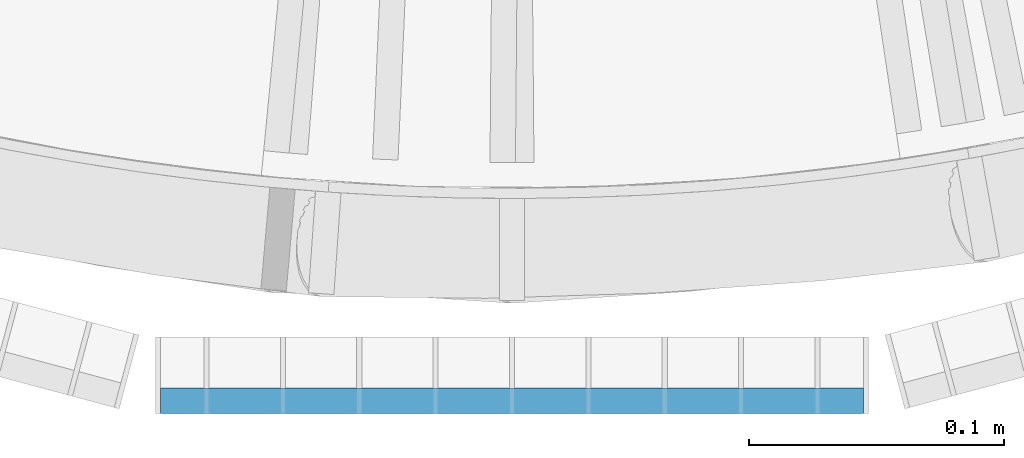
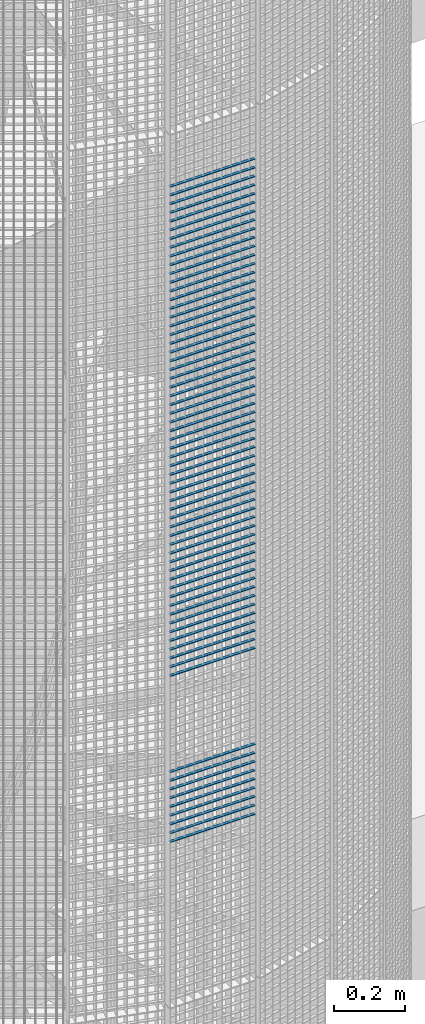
# One storey, part 150 of 1183: 66 beams, 1 element without a shape of its own.
"""IFC2X3 building model written with IfcOpenShell, lengths in millimetres."""

from ifc_helpers import new_model, si_unit, frame, origin_with_axes, origin_2d_with_axis, place, context, subcontext, project, spatial, rectangle, extrude, material, type_object, element, aggregate, save


model = new_model("IFC2X3")

# Units and contexts
model_context = context("Model", 3, precision=1e-05, world=origin_with_axes())
body_context = subcontext(model_context, "Body", "Model", "MODEL_VIEW")
ifc_project = project(units=[si_unit("LENGTHUNIT", "METRE", prefix="MILLI"), si_unit("AREAUNIT", "SQUARE_METRE"), si_unit("VOLUMEUNIT", "CUBIC_METRE"), si_unit("MASSUNIT", "GRAM", prefix="KILO"), si_unit("TIMEUNIT", "SECOND"), si_unit("PLANEANGLEUNIT", "RADIAN"), si_unit("SOLIDANGLEUNIT", "STERADIAN"), si_unit("THERMODYNAMICTEMPERATUREUNIT", "DEGREE_CELSIUS"), si_unit("LUMINOUSINTENSITYUNIT", "LUMEN")], contexts=[model_context])

# Site, building, storey
site_placement = place(None, origin_with_axes())
site = spatial("IfcSite", under=ifc_project, at=site_placement, Name="Undefined", CompositionType="ELEMENT")
building_placement = place(site_placement, origin_with_axes())
building = spatial("IfcBuilding", under=site, at=building_placement, Name="Undefined", CompositionType="ELEMENT")
storey_placement = place(building_placement, origin_with_axes())
storey = spatial("IfcBuildingStorey", under=building, at=storey_placement, Name="Undefined", CompositionType="ELEMENT", Elevation=0.0)

# Assembly, beams
assembly_placement = place(storey_placement, origin_with_axes())
assembly = element("IfcElementAssembly", 1, at=assembly_placement, inside=storey, Name="BORDURE", AssemblyPlace="NOTDEFINED", PredefinedType="NOTDEFINED")
ifc_material = material(Name="STEEL/S235JR")
beam_type = type_object("IfcBeamType", Name="PL2*10", PredefinedType="NOTDEFINED")
beam_1_placement = place(assembly_placement, frame((-137.996003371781, -1113.47999999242, 11820.0), z_axis=(0.0, -1.0, 0.0), x_axis=(1.0, 0.0, 0.0)))
beam_1 = element("IfcBeam", 2, at=beam_1_placement, type_object=beam_type, material=ifc_material, Name="ENTRETOISE", context=body_context, shape_type="SweptSolid", body=[
    extrude(rectangle(XDim=2.0, YDim=10.0, at=origin_2d_with_axis()), frame((275.999999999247, 9.09494701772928e-13, 1.53210777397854e-14), z_axis=(-1.0, 0.0, 0.0), x_axis=(0.0, -1.0, 0.0)), (0.0, 0.0, 1.0), 276.0),
])
beam_2_placement = place(assembly_placement, frame((-137.996003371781, -1113.47999999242, 11790.0), z_axis=(0.0, -1.0, 0.0), x_axis=(1.0, 0.0, 0.0)))
beam_2 = element("IfcBeam", 3, at=beam_2_placement, type_object=beam_type, material=ifc_material, Name="ENTRETOISE", context=body_context, shape_type="SweptSolid", body=[
    extrude(rectangle(XDim=2.0, YDim=10.0, at=origin_2d_with_axis()), frame((275.999999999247, 9.09494701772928e-13, 1.53210777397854e-14), z_axis=(-1.0, 0.0, 0.0), x_axis=(0.0, -1.0, 0.0)), (0.0, 0.0, 1.0), 276.0),
])
beam_3_placement = place(assembly_placement, frame((-137.996003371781, -1113.47999999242, 11760.0), z_axis=(0.0, -1.0, 0.0), x_axis=(1.0, 0.0, 0.0)))
beam_3 = element("IfcBeam", 4, at=beam_3_placement, type_object=beam_type, material=ifc_material, Name="ENTRETOISE", context=body_context, shape_type="SweptSolid", body=[
    extrude(rectangle(XDim=2.0, YDim=10.0, at=origin_2d_with_axis()), frame((275.999999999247, 9.09494701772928e-13, 1.53210777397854e-14), z_axis=(-1.0, 0.0, 0.0), x_axis=(0.0, -1.0, 0.0)), (0.0, 0.0, 1.0), 276.0),
])
beam_4_placement = place(assembly_placement, frame((-137.996003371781, -1113.47999999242, 11730.0), z_axis=(0.0, -1.0, 0.0), x_axis=(1.0, 0.0, 0.0)))
beam_4 = element("IfcBeam", 5, at=beam_4_placement, type_object=beam_type, material=ifc_material, Name="ENTRETOISE", context=body_context, shape_type="SweptSolid", body=[
    extrude(rectangle(XDim=2.0, YDim=10.0, at=origin_2d_with_axis()), frame((275.999999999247, 9.09494701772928e-13, 1.53210777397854e-14), z_axis=(-1.0, 0.0, 0.0), x_axis=(0.0, -1.0, 0.0)), (0.0, 0.0, 1.0), 276.0),
])
beam_5_placement = place(assembly_placement, frame((-137.996003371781, -1113.47999999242, 11700.0), z_axis=(0.0, -1.0, 0.0), x_axis=(1.0, 0.0, 0.0)))
beam_5 = element("IfcBeam", 6, at=beam_5_placement, type_object=beam_type, material=ifc_material, Name="ENTRETOISE", context=body_context, shape_type="SweptSolid", body=[
    extrude(rectangle(XDim=2.0, YDim=10.0, at=origin_2d_with_axis()), frame((275.999999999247, 9.09494701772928e-13, 1.53210777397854e-14), z_axis=(-1.0, 0.0, 0.0), x_axis=(0.0, -1.0, 0.0)), (0.0, 0.0, 1.0), 276.0),
])
beam_6_placement = place(assembly_placement, frame((-137.996003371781, -1113.47999999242, 11670.0), z_axis=(0.0, -1.0, 0.0), x_axis=(1.0, 0.0, 0.0)))
beam_6 = element("IfcBeam", 7, at=beam_6_placement, type_object=beam_type, material=ifc_material, Name="ENTRETOISE", context=body_context, shape_type="SweptSolid", body=[
    extrude(rectangle(XDim=2.0, YDim=10.0, at=origin_2d_with_axis()), frame((275.999999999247, 9.09494701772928e-13, 1.53210777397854e-14), z_axis=(-1.0, 0.0, 0.0), x_axis=(0.0, -1.0, 0.0)), (0.0, 0.0, 1.0), 276.0),
])
beam_7_placement = place(assembly_placement, frame((-137.996003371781, -1113.47999999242, 11640.0), z_axis=(0.0, -1.0, 0.0), x_axis=(1.0, 0.0, 0.0)))
beam_7 = element("IfcBeam", 8, at=beam_7_placement, type_object=beam_type, material=ifc_material, Name="ENTRETOISE", context=body_context, shape_type="SweptSolid", body=[
    extrude(rectangle(XDim=2.0, YDim=10.0, at=origin_2d_with_axis()), frame((275.999999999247, 9.09494701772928e-13, 1.53210777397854e-14), z_axis=(-1.0, 0.0, 0.0), x_axis=(0.0, -1.0, 0.0)), (0.0, 0.0, 1.0), 276.0),
])
beam_8_placement = place(assembly_placement, frame((-137.99600337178, -1113.47999999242, 11610.0), z_axis=(0.0, -1.0, 0.0), x_axis=(1.0, 0.0, 0.0)))
beam_8 = element("IfcBeam", 9, at=beam_8_placement, type_object=beam_type, material=ifc_material, Name="ENTRETOISE", context=body_context, shape_type="SweptSolid", body=[
    extrude(rectangle(XDim=2.0, YDim=10.0, at=origin_2d_with_axis()), frame((275.999999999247, 9.09494701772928e-13, 1.53210777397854e-14), z_axis=(-1.0, 0.0, 0.0), x_axis=(0.0, -1.0, 0.0)), (0.0, 0.0, 1.0), 276.0),
])
beam_9_placement = place(assembly_placement, frame((-137.99600337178, -1113.47999999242, 11580.0), z_axis=(0.0, -1.0, 0.0), x_axis=(1.0, 0.0, 0.0)))
beam_9 = element("IfcBeam", 10, at=beam_9_placement, type_object=beam_type, material=ifc_material, Name="ENTRETOISE", context=body_context, shape_type="SweptSolid", body=[
    extrude(rectangle(XDim=2.0, YDim=10.0, at=origin_2d_with_axis()), frame((275.999999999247, 9.09494701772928e-13, 1.53210777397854e-14), z_axis=(-1.0, 0.0, 0.0), x_axis=(0.0, -1.0, 0.0)), (0.0, 0.0, 1.0), 276.0),
])
beam_10_placement = place(assembly_placement, frame((-137.99600337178, -1113.47999999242, 11550.0), z_axis=(0.0, -1.0, 0.0), x_axis=(1.0, 0.0, 0.0)))
beam_10 = element("IfcBeam", 11, at=beam_10_placement, type_object=beam_type, material=ifc_material, Name="ENTRETOISE", context=body_context, shape_type="SweptSolid", body=[
    extrude(rectangle(XDim=2.0, YDim=10.0, at=origin_2d_with_axis()), frame((275.999999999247, 9.09494701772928e-13, 1.53210777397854e-14), z_axis=(-1.0, 0.0, 0.0), x_axis=(0.0, -1.0, 0.0)), (0.0, 0.0, 1.0), 276.0),
])
beam_11_placement = place(assembly_placement, frame((-137.99600337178, -1113.47999999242, 11520.0), z_axis=(0.0, -1.0, 0.0), x_axis=(1.0, 0.0, 0.0)))
beam_11 = element("IfcBeam", 12, at=beam_11_placement, type_object=beam_type, material=ifc_material, Name="ENTRETOISE", context=body_context, shape_type="SweptSolid", body=[
    extrude(rectangle(XDim=2.0, YDim=10.0, at=origin_2d_with_axis()), frame((275.999999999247, 9.09494701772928e-13, 1.53210777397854e-14), z_axis=(-1.0, 0.0, 0.0), x_axis=(0.0, -1.0, 0.0)), (0.0, 0.0, 1.0), 276.0),
])
beam_12_placement = place(assembly_placement, frame((-137.99600337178, -1113.47999999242, 11490.0), z_axis=(0.0, -1.0, 0.0), x_axis=(1.0, 0.0, 0.0)))
beam_12 = element("IfcBeam", 13, at=beam_12_placement, type_object=beam_type, material=ifc_material, Name="ENTRETOISE", context=body_context, shape_type="SweptSolid", body=[
    extrude(rectangle(XDim=2.0, YDim=10.0, at=origin_2d_with_axis()), frame((275.999999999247, 9.09494701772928e-13, 1.53210777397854e-14), z_axis=(-1.0, 0.0, 0.0), x_axis=(0.0, -1.0, 0.0)), (0.0, 0.0, 1.0), 276.0),
])
beam_13_placement = place(assembly_placement, frame((-137.99600337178, -1113.47999999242, 11460.0), z_axis=(0.0, -1.0, 0.0), x_axis=(1.0, 0.0, 0.0)))
beam_13 = element("IfcBeam", 14, at=beam_13_placement, type_object=beam_type, material=ifc_material, Name="ENTRETOISE", context=body_context, shape_type="SweptSolid", body=[
    extrude(rectangle(XDim=2.0, YDim=10.0, at=origin_2d_with_axis()), frame((275.999999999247, 9.09494701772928e-13, 1.53210777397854e-14), z_axis=(-1.0, 0.0, 0.0), x_axis=(0.0, -1.0, 0.0)), (0.0, 0.0, 1.0), 276.0),
])
beam_14_placement = place(assembly_placement, frame((-137.99600337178, -1113.47999999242, 11430.0), z_axis=(0.0, -1.0, 0.0), x_axis=(1.0, 0.0, 0.0)))
beam_14 = element("IfcBeam", 15, at=beam_14_placement, type_object=beam_type, material=ifc_material, Name="ENTRETOISE", context=body_context, shape_type="SweptSolid", body=[
    extrude(rectangle(XDim=2.0, YDim=10.0, at=origin_2d_with_axis()), frame((275.999999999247, 9.09494701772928e-13, 1.53210777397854e-14), z_axis=(-1.0, 0.0, 0.0), x_axis=(0.0, -1.0, 0.0)), (0.0, 0.0, 1.0), 276.0),
])
beam_15_placement = place(assembly_placement, frame((-137.99600337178, -1113.47999999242, 11400.0), z_axis=(0.0, -1.0, 0.0), x_axis=(1.0, 0.0, 0.0)))
beam_15 = element("IfcBeam", 16, at=beam_15_placement, type_object=beam_type, material=ifc_material, Name="ENTRETOISE", context=body_context, shape_type="SweptSolid", body=[
    extrude(rectangle(XDim=2.0, YDim=10.0, at=origin_2d_with_axis()), frame((275.999999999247, 9.09494701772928e-13, 1.53210777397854e-14), z_axis=(-1.0, 0.0, 0.0), x_axis=(0.0, -1.0, 0.0)), (0.0, 0.0, 1.0), 276.0),
])
beam_16_placement = place(assembly_placement, frame((-137.99600337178, -1113.47999999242, 11370.0), z_axis=(0.0, -1.0, 0.0), x_axis=(1.0, 0.0, 0.0)))
beam_16 = element("IfcBeam", 17, at=beam_16_placement, type_object=beam_type, material=ifc_material, Name="ENTRETOISE", context=body_context, shape_type="SweptSolid", body=[
    extrude(rectangle(XDim=2.0, YDim=10.0, at=origin_2d_with_axis()), frame((275.999999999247, 9.09494701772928e-13, 1.53210777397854e-14), z_axis=(-1.0, 0.0, 0.0), x_axis=(0.0, -1.0, 0.0)), (0.0, 0.0, 1.0), 276.0),
])
beam_17_placement = place(assembly_placement, frame((-137.99600337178, -1113.47999999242, 11340.0), z_axis=(0.0, -1.0, 0.0), x_axis=(1.0, 0.0, 0.0)))
beam_17 = element("IfcBeam", 18, at=beam_17_placement, type_object=beam_type, material=ifc_material, Name="ENTRETOISE", context=body_context, shape_type="SweptSolid", body=[
    extrude(rectangle(XDim=2.0, YDim=10.0, at=origin_2d_with_axis()), frame((275.999999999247, 9.09494701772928e-13, 1.53210777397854e-14), z_axis=(-1.0, 0.0, 0.0), x_axis=(0.0, -1.0, 0.0)), (0.0, 0.0, 1.0), 276.0),
])
beam_18_placement = place(assembly_placement, frame((-137.996003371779, -1113.47999999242, 11310.0), z_axis=(0.0, -1.0, 0.0), x_axis=(1.0, 0.0, 0.0)))
beam_18 = element("IfcBeam", 19, at=beam_18_placement, type_object=beam_type, material=ifc_material, Name="ENTRETOISE", context=body_context, shape_type="SweptSolid", body=[
    extrude(rectangle(XDim=2.0, YDim=10.0, at=origin_2d_with_axis()), frame((275.999999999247, 9.09494701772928e-13, 1.53210777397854e-14), z_axis=(-1.0, 0.0, 0.0), x_axis=(0.0, -1.0, 0.0)), (0.0, 0.0, 1.0), 276.0),
])
beam_19_placement = place(assembly_placement, frame((-137.996003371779, -1113.47999999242, 11280.0), z_axis=(0.0, -1.0, 0.0), x_axis=(1.0, 0.0, 0.0)))
beam_19 = element("IfcBeam", 20, at=beam_19_placement, type_object=beam_type, material=ifc_material, Name="ENTRETOISE", context=body_context, shape_type="SweptSolid", body=[
    extrude(rectangle(XDim=2.0, YDim=10.0, at=origin_2d_with_axis()), frame((275.999999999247, 9.09494701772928e-13, 1.53210777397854e-14), z_axis=(-1.0, 0.0, 0.0), x_axis=(0.0, -1.0, 0.0)), (0.0, 0.0, 1.0), 276.0),
])
beam_20_placement = place(assembly_placement, frame((-137.996003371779, -1113.47999999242, 11250.0), z_axis=(0.0, -1.0, 0.0), x_axis=(1.0, 0.0, 0.0)))
beam_20 = element("IfcBeam", 21, at=beam_20_placement, type_object=beam_type, material=ifc_material, Name="ENTRETOISE", context=body_context, shape_type="SweptSolid", body=[
    extrude(rectangle(XDim=2.0, YDim=10.0, at=origin_2d_with_axis()), frame((275.999999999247, 9.09494701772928e-13, 1.53210777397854e-14), z_axis=(-1.0, 0.0, 0.0), x_axis=(0.0, -1.0, 0.0)), (0.0, 0.0, 1.0), 276.0),
])
beam_21_placement = place(assembly_placement, frame((-137.996003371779, -1113.47999999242, 11220.0), z_axis=(0.0, -1.0, 0.0), x_axis=(1.0, 0.0, 0.0)))
beam_21 = element("IfcBeam", 22, at=beam_21_placement, type_object=beam_type, material=ifc_material, Name="ENTRETOISE", context=body_context, shape_type="SweptSolid", body=[
    extrude(rectangle(XDim=2.0, YDim=10.0, at=origin_2d_with_axis()), frame((275.999999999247, 9.09494701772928e-13, 1.53210777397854e-14), z_axis=(-1.0, 0.0, 0.0), x_axis=(0.0, -1.0, 0.0)), (0.0, 0.0, 1.0), 276.0),
])
beam_22_placement = place(assembly_placement, frame((-137.996003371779, -1113.47999999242, 11190.0), z_axis=(0.0, -1.0, 0.0), x_axis=(1.0, 0.0, 0.0)))
beam_22 = element("IfcBeam", 23, at=beam_22_placement, type_object=beam_type, material=ifc_material, Name="ENTRETOISE", context=body_context, shape_type="SweptSolid", body=[
    extrude(rectangle(XDim=2.0, YDim=10.0, at=origin_2d_with_axis()), frame((275.999999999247, 9.09494701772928e-13, 1.53210777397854e-14), z_axis=(-1.0, 0.0, 0.0), x_axis=(0.0, -1.0, 0.0)), (0.0, 0.0, 1.0), 276.0),
])
beam_23_placement = place(assembly_placement, frame((-137.996003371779, -1113.47999999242, 11160.0), z_axis=(0.0, -1.0, 0.0), x_axis=(1.0, 0.0, 0.0)))
beam_23 = element("IfcBeam", 24, at=beam_23_placement, type_object=beam_type, material=ifc_material, Name="ENTRETOISE", context=body_context, shape_type="SweptSolid", body=[
    extrude(rectangle(XDim=2.0, YDim=10.0, at=origin_2d_with_axis()), frame((275.999999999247, 9.09494701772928e-13, 1.53210777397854e-14), z_axis=(-1.0, 0.0, 0.0), x_axis=(0.0, -1.0, 0.0)), (0.0, 0.0, 1.0), 276.0),
])
beam_24_placement = place(assembly_placement, frame((-137.996003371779, -1113.47999999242, 11130.0), z_axis=(0.0, -1.0, 0.0), x_axis=(1.0, 0.0, 0.0)))
beam_24 = element("IfcBeam", 25, at=beam_24_placement, type_object=beam_type, material=ifc_material, Name="ENTRETOISE", context=body_context, shape_type="SweptSolid", body=[
    extrude(rectangle(XDim=2.0, YDim=10.0, at=origin_2d_with_axis()), frame((275.999999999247, 9.09494701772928e-13, 1.53210777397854e-14), z_axis=(-1.0, 0.0, 0.0), x_axis=(0.0, -1.0, 0.0)), (0.0, 0.0, 1.0), 276.0),
])
beam_25_placement = place(assembly_placement, frame((-137.996003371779, -1113.47999999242, 11100.0), z_axis=(0.0, -1.0, 0.0), x_axis=(1.0, 0.0, 0.0)))
beam_25 = element("IfcBeam", 26, at=beam_25_placement, type_object=beam_type, material=ifc_material, Name="ENTRETOISE", context=body_context, shape_type="SweptSolid", body=[
    extrude(rectangle(XDim=2.0, YDim=10.0, at=origin_2d_with_axis()), frame((275.999999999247, 9.09494701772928e-13, 1.53210777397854e-14), z_axis=(-1.0, 0.0, 0.0), x_axis=(0.0, -1.0, 0.0)), (0.0, 0.0, 1.0), 276.0),
])
beam_26_placement = place(assembly_placement, frame((-137.996003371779, -1113.47999999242, 11070.0), z_axis=(0.0, -1.0, 0.0), x_axis=(1.0, 0.0, 0.0)))
beam_26 = element("IfcBeam", 27, at=beam_26_placement, type_object=beam_type, material=ifc_material, Name="ENTRETOISE", context=body_context, shape_type="SweptSolid", body=[
    extrude(rectangle(XDim=2.0, YDim=10.0, at=origin_2d_with_axis()), frame((275.999999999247, 9.09494701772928e-13, 1.53210777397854e-14), z_axis=(-1.0, 0.0, 0.0), x_axis=(0.0, -1.0, 0.0)), (0.0, 0.0, 1.0), 276.0),
])
beam_27_placement = place(assembly_placement, frame((-137.996003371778, -1113.47999999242, 11040.0), z_axis=(0.0, -1.0, 0.0), x_axis=(1.0, 0.0, 0.0)))
beam_27 = element("IfcBeam", 28, at=beam_27_placement, type_object=beam_type, material=ifc_material, Name="ENTRETOISE", context=body_context, shape_type="SweptSolid", body=[
    extrude(rectangle(XDim=2.0, YDim=10.0, at=origin_2d_with_axis()), frame((275.999999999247, 9.09494701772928e-13, 1.53210777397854e-14), z_axis=(-1.0, 0.0, 0.0), x_axis=(0.0, -1.0, 0.0)), (0.0, 0.0, 1.0), 276.0),
])
beam_28_placement = place(assembly_placement, frame((-137.996003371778, -1113.47999999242, 11010.0), z_axis=(0.0, -1.0, 0.0), x_axis=(1.0, 0.0, 0.0)))
beam_28 = element("IfcBeam", 29, at=beam_28_placement, type_object=beam_type, material=ifc_material, Name="ENTRETOISE", context=body_context, shape_type="SweptSolid", body=[
    extrude(rectangle(XDim=2.0, YDim=10.0, at=origin_2d_with_axis()), frame((275.999999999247, 9.09494701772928e-13, 1.53210777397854e-14), z_axis=(-1.0, 0.0, 0.0), x_axis=(0.0, -1.0, 0.0)), (0.0, 0.0, 1.0), 276.0),
])
beam_29_placement = place(assembly_placement, frame((-137.996003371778, -1113.47999999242, 10980.0), z_axis=(0.0, -1.0, 0.0), x_axis=(1.0, 0.0, 0.0)))
beam_29 = element("IfcBeam", 30, at=beam_29_placement, type_object=beam_type, material=ifc_material, Name="ENTRETOISE", context=body_context, shape_type="SweptSolid", body=[
    extrude(rectangle(XDim=2.0, YDim=10.0, at=origin_2d_with_axis()), frame((275.999999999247, 9.09494701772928e-13, 1.53210777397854e-14), z_axis=(-1.0, 0.0, 0.0), x_axis=(0.0, -1.0, 0.0)), (0.0, 0.0, 1.0), 276.0),
])
beam_30_placement = place(assembly_placement, frame((-137.996003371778, -1113.47999999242, 10950.0), z_axis=(0.0, -1.0, 0.0), x_axis=(1.0, 0.0, 0.0)))
beam_30 = element("IfcBeam", 31, at=beam_30_placement, type_object=beam_type, material=ifc_material, Name="ENTRETOISE", context=body_context, shape_type="SweptSolid", body=[
    extrude(rectangle(XDim=2.0, YDim=10.0, at=origin_2d_with_axis()), frame((275.999999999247, 9.09494701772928e-13, 1.53210777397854e-14), z_axis=(-1.0, 0.0, 0.0), x_axis=(0.0, -1.0, 0.0)), (0.0, 0.0, 1.0), 276.0),
])
beam_31_placement = place(assembly_placement, frame((-137.996003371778, -1113.47999999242, 10920.0), z_axis=(0.0, -1.0, 0.0), x_axis=(1.0, 0.0, 0.0)))
beam_31 = element("IfcBeam", 32, at=beam_31_placement, type_object=beam_type, material=ifc_material, Name="ENTRETOISE", context=body_context, shape_type="SweptSolid", body=[
    extrude(rectangle(XDim=2.0, YDim=10.0, at=origin_2d_with_axis()), frame((275.999999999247, 9.09494701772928e-13, 1.53210777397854e-14), z_axis=(-1.0, 0.0, 0.0), x_axis=(0.0, -1.0, 0.0)), (0.0, 0.0, 1.0), 276.0),
])
beam_32_placement = place(assembly_placement, frame((-137.996003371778, -1113.47999999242, 10890.0), z_axis=(0.0, -1.0, 0.0), x_axis=(1.0, 0.0, 0.0)))
beam_32 = element("IfcBeam", 33, at=beam_32_placement, type_object=beam_type, material=ifc_material, Name="ENTRETOISE", context=body_context, shape_type="SweptSolid", body=[
    extrude(rectangle(XDim=2.0, YDim=10.0, at=origin_2d_with_axis()), frame((275.999999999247, 9.09494701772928e-13, 1.53210777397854e-14), z_axis=(-1.0, 0.0, 0.0), x_axis=(0.0, -1.0, 0.0)), (0.0, 0.0, 1.0), 276.0),
])
beam_33_placement = place(assembly_placement, frame((-137.996003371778, -1113.47999999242, 10860.0), z_axis=(0.0, -1.0, 0.0), x_axis=(1.0, 0.0, 0.0)))
beam_33 = element("IfcBeam", 34, at=beam_33_placement, type_object=beam_type, material=ifc_material, Name="ENTRETOISE", context=body_context, shape_type="SweptSolid", body=[
    extrude(rectangle(XDim=2.0, YDim=10.0, at=origin_2d_with_axis()), frame((275.999999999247, 9.09494701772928e-13, 1.53210777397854e-14), z_axis=(-1.0, 0.0, 0.0), x_axis=(0.0, -1.0, 0.0)), (0.0, 0.0, 1.0), 276.0),
])
beam_34_placement = place(assembly_placement, frame((-137.996003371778, -1113.47999999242, 10830.0), z_axis=(0.0, -1.0, 0.0), x_axis=(1.0, 0.0, 0.0)))
beam_34 = element("IfcBeam", 35, at=beam_34_placement, type_object=beam_type, material=ifc_material, Name="ENTRETOISE", context=body_context, shape_type="SweptSolid", body=[
    extrude(rectangle(XDim=2.0, YDim=10.0, at=origin_2d_with_axis()), frame((275.999999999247, 9.09494701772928e-13, 1.53210777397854e-14), z_axis=(-1.0, 0.0, 0.0), x_axis=(0.0, -1.0, 0.0)), (0.0, 0.0, 1.0), 276.0),
])
beam_35_placement = place(assembly_placement, frame((-137.996003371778, -1113.47999999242, 10800.0), z_axis=(0.0, -1.0, 0.0), x_axis=(1.0, 0.0, 0.0)))
beam_35 = element("IfcBeam", 36, at=beam_35_placement, type_object=beam_type, material=ifc_material, Name="ENTRETOISE", context=body_context, shape_type="SweptSolid", body=[
    extrude(rectangle(XDim=2.0, YDim=10.0, at=origin_2d_with_axis()), frame((275.999999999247, 9.09494701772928e-13, 1.53210777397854e-14), z_axis=(-1.0, 0.0, 0.0), x_axis=(0.0, -1.0, 0.0)), (0.0, 0.0, 1.0), 276.0),
])
beam_36_placement = place(assembly_placement, frame((-137.996003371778, -1113.47999999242, 10770.0), z_axis=(0.0, -1.0, 0.0), x_axis=(1.0, 0.0, 0.0)))
beam_36 = element("IfcBeam", 37, at=beam_36_placement, type_object=beam_type, material=ifc_material, Name="ENTRETOISE", context=body_context, shape_type="SweptSolid", body=[
    extrude(rectangle(XDim=2.0, YDim=10.0, at=origin_2d_with_axis()), frame((275.999999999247, 9.09494701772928e-13, 1.53210777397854e-14), z_axis=(-1.0, 0.0, 0.0), x_axis=(0.0, -1.0, 0.0)), (0.0, 0.0, 1.0), 276.0),
])
beam_37_placement = place(assembly_placement, frame((-137.996003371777, -1113.47999999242, 10740.0), z_axis=(0.0, -1.0, 0.0), x_axis=(1.0, 0.0, 0.0)))
beam_37 = element("IfcBeam", 38, at=beam_37_placement, type_object=beam_type, material=ifc_material, Name="ENTRETOISE", context=body_context, shape_type="SweptSolid", body=[
    extrude(rectangle(XDim=2.0, YDim=10.0, at=origin_2d_with_axis()), frame((275.999999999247, 9.09494701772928e-13, 1.53210777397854e-14), z_axis=(-1.0, 0.0, 0.0), x_axis=(0.0, -1.0, 0.0)), (0.0, 0.0, 1.0), 276.0),
])
beam_38_placement = place(assembly_placement, frame((-137.996003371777, -1113.47999999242, 10710.0), z_axis=(0.0, -1.0, 0.0), x_axis=(1.0, 0.0, 0.0)))
beam_38 = element("IfcBeam", 39, at=beam_38_placement, type_object=beam_type, material=ifc_material, Name="ENTRETOISE", context=body_context, shape_type="SweptSolid", body=[
    extrude(rectangle(XDim=2.0, YDim=10.0, at=origin_2d_with_axis()), frame((275.999999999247, 9.09494701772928e-13, 1.53210777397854e-14), z_axis=(-1.0, 0.0, 0.0), x_axis=(0.0, -1.0, 0.0)), (0.0, 0.0, 1.0), 276.0),
])
beam_39_placement = place(assembly_placement, frame((-137.996003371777, -1113.47999999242, 10680.0), z_axis=(0.0, -1.0, 0.0), x_axis=(1.0, 0.0, 0.0)))
beam_39 = element("IfcBeam", 40, at=beam_39_placement, type_object=beam_type, material=ifc_material, Name="ENTRETOISE", context=body_context, shape_type="SweptSolid", body=[
    extrude(rectangle(XDim=2.0, YDim=10.0, at=origin_2d_with_axis()), frame((275.999999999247, 9.09494701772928e-13, 1.53210777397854e-14), z_axis=(-1.0, 0.0, 0.0), x_axis=(0.0, -1.0, 0.0)), (0.0, 0.0, 1.0), 276.0),
])
beam_40_placement = place(assembly_placement, frame((-137.996003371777, -1113.47999999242, 10650.0), z_axis=(0.0, -1.0, 0.0), x_axis=(1.0, 0.0, 0.0)))
beam_40 = element("IfcBeam", 41, at=beam_40_placement, type_object=beam_type, material=ifc_material, Name="ENTRETOISE", context=body_context, shape_type="SweptSolid", body=[
    extrude(rectangle(XDim=2.0, YDim=10.0, at=origin_2d_with_axis()), frame((275.999999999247, 9.09494701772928e-13, 1.53210777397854e-14), z_axis=(-1.0, 0.0, 0.0), x_axis=(0.0, -1.0, 0.0)), (0.0, 0.0, 1.0), 276.0),
])
beam_41_placement = place(assembly_placement, frame((-137.996003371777, -1113.47999999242, 10620.0), z_axis=(0.0, -1.0, 0.0), x_axis=(1.0, 0.0, 0.0)))
beam_41 = element("IfcBeam", 42, at=beam_41_placement, type_object=beam_type, material=ifc_material, Name="ENTRETOISE", context=body_context, shape_type="SweptSolid", body=[
    extrude(rectangle(XDim=2.0, YDim=10.0, at=origin_2d_with_axis()), frame((275.999999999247, 9.09494701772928e-13, 1.53210777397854e-14), z_axis=(-1.0, 0.0, 0.0), x_axis=(0.0, -1.0, 0.0)), (0.0, 0.0, 1.0), 276.0),
])
beam_42_placement = place(assembly_placement, frame((-137.996003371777, -1113.47999999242, 10590.0), z_axis=(0.0, -1.0, 0.0), x_axis=(1.0, 0.0, 0.0)))
beam_42 = element("IfcBeam", 43, at=beam_42_placement, type_object=beam_type, material=ifc_material, Name="ENTRETOISE", context=body_context, shape_type="SweptSolid", body=[
    extrude(rectangle(XDim=2.0, YDim=10.0, at=origin_2d_with_axis()), frame((275.999999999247, 9.09494701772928e-13, 1.53210777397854e-14), z_axis=(-1.0, 0.0, 0.0), x_axis=(0.0, -1.0, 0.0)), (0.0, 0.0, 1.0), 276.0),
])
beam_43_placement = place(assembly_placement, frame((-137.996003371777, -1113.47999999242, 10560.0), z_axis=(0.0, -1.0, 0.0), x_axis=(1.0, 0.0, 0.0)))
beam_43 = element("IfcBeam", 44, at=beam_43_placement, type_object=beam_type, material=ifc_material, Name="ENTRETOISE", context=body_context, shape_type="SweptSolid", body=[
    extrude(rectangle(XDim=2.0, YDim=10.0, at=origin_2d_with_axis()), frame((275.999999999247, 9.09494701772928e-13, 1.53210777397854e-14), z_axis=(-1.0, 0.0, 0.0), x_axis=(0.0, -1.0, 0.0)), (0.0, 0.0, 1.0), 276.0),
])
beam_44_placement = place(assembly_placement, frame((-137.996003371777, -1113.47999999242, 10530.0), z_axis=(0.0, -1.0, 0.0), x_axis=(1.0, 0.0, 0.0)))
beam_44 = element("IfcBeam", 45, at=beam_44_placement, type_object=beam_type, material=ifc_material, Name="ENTRETOISE", context=body_context, shape_type="SweptSolid", body=[
    extrude(rectangle(XDim=2.0, YDim=10.0, at=origin_2d_with_axis()), frame((275.999999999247, 9.09494701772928e-13, 1.53210777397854e-14), z_axis=(-1.0, 0.0, 0.0), x_axis=(0.0, -1.0, 0.0)), (0.0, 0.0, 1.0), 276.0),
])
beam_45_placement = place(assembly_placement, frame((-137.996003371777, -1113.47999999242, 10500.0), z_axis=(0.0, -1.0, 0.0), x_axis=(1.0, 0.0, 0.0)))
beam_45 = element("IfcBeam", 46, at=beam_45_placement, type_object=beam_type, material=ifc_material, Name="ENTRETOISE", context=body_context, shape_type="SweptSolid", body=[
    extrude(rectangle(XDim=2.0, YDim=10.0, at=origin_2d_with_axis()), frame((275.999999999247, 9.09494701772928e-13, 1.53210777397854e-14), z_axis=(-1.0, 0.0, 0.0), x_axis=(0.0, -1.0, 0.0)), (0.0, 0.0, 1.0), 276.0),
])
beam_46_placement = place(assembly_placement, frame((-137.996003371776, -1113.47999999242, 10470.0), z_axis=(0.0, -1.0, 0.0), x_axis=(1.0, 0.0, 0.0)))
beam_46 = element("IfcBeam", 47, at=beam_46_placement, type_object=beam_type, material=ifc_material, Name="ENTRETOISE", context=body_context, shape_type="SweptSolid", body=[
    extrude(rectangle(XDim=2.0, YDim=10.0, at=origin_2d_with_axis()), frame((275.999999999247, 9.09494701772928e-13, 1.53210777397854e-14), z_axis=(-1.0, 0.0, 0.0), x_axis=(0.0, -1.0, 0.0)), (0.0, 0.0, 1.0), 276.0),
])
beam_47_placement = place(assembly_placement, frame((-137.996003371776, -1113.47999999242, 10440.0), z_axis=(0.0, -1.0, 0.0), x_axis=(1.0, 0.0, 0.0)))
beam_47 = element("IfcBeam", 48, at=beam_47_placement, type_object=beam_type, material=ifc_material, Name="ENTRETOISE", context=body_context, shape_type="SweptSolid", body=[
    extrude(rectangle(XDim=2.0, YDim=10.0, at=origin_2d_with_axis()), frame((275.999999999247, 9.09494701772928e-13, 1.53210777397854e-14), z_axis=(-1.0, 0.0, 0.0), x_axis=(0.0, -1.0, 0.0)), (0.0, 0.0, 1.0), 276.0),
])
beam_48_placement = place(assembly_placement, frame((-137.996003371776, -1113.47999999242, 10410.0), z_axis=(0.0, -1.0, 0.0), x_axis=(1.0, 0.0, 0.0)))
beam_48 = element("IfcBeam", 49, at=beam_48_placement, type_object=beam_type, material=ifc_material, Name="ENTRETOISE", context=body_context, shape_type="SweptSolid", body=[
    extrude(rectangle(XDim=2.0, YDim=10.0, at=origin_2d_with_axis()), frame((275.999999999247, 9.09494701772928e-13, 1.53210777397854e-14), z_axis=(-1.0, 0.0, 0.0), x_axis=(0.0, -1.0, 0.0)), (0.0, 0.0, 1.0), 276.0),
])
beam_49_placement = place(assembly_placement, frame((-137.996003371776, -1113.47999999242, 10380.0), z_axis=(0.0, -1.0, 0.0), x_axis=(1.0, 0.0, 0.0)))
beam_49 = element("IfcBeam", 50, at=beam_49_placement, type_object=beam_type, material=ifc_material, Name="ENTRETOISE", context=body_context, shape_type="SweptSolid", body=[
    extrude(rectangle(XDim=2.0, YDim=10.0, at=origin_2d_with_axis()), frame((275.999999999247, 9.09494701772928e-13, 1.53210777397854e-14), z_axis=(-1.0, 0.0, 0.0), x_axis=(0.0, -1.0, 0.0)), (0.0, 0.0, 1.0), 276.0),
])
beam_50_placement = place(assembly_placement, frame((-137.996003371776, -1113.47999999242, 10350.0), z_axis=(0.0, -1.0, 0.0), x_axis=(1.0, 0.0, 0.0)))
beam_50 = element("IfcBeam", 51, at=beam_50_placement, type_object=beam_type, material=ifc_material, Name="ENTRETOISE", context=body_context, shape_type="SweptSolid", body=[
    extrude(rectangle(XDim=2.0, YDim=10.0, at=origin_2d_with_axis()), frame((275.999999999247, 9.09494701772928e-13, 1.53210777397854e-14), z_axis=(-1.0, 0.0, 0.0), x_axis=(0.0, -1.0, 0.0)), (0.0, 0.0, 1.0), 276.0),
])
beam_51_placement = place(assembly_placement, frame((-137.996003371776, -1113.47999999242, 10320.0), z_axis=(0.0, -1.0, 0.0), x_axis=(1.0, 0.0, 0.0)))
beam_51 = element("IfcBeam", 52, at=beam_51_placement, type_object=beam_type, material=ifc_material, Name="ENTRETOISE", context=body_context, shape_type="SweptSolid", body=[
    extrude(rectangle(XDim=2.0, YDim=10.0, at=origin_2d_with_axis()), frame((275.999999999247, 9.09494701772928e-13, 1.53210777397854e-14), z_axis=(-1.0, 0.0, 0.0), x_axis=(0.0, -1.0, 0.0)), (0.0, 0.0, 1.0), 276.0),
])
beam_52_placement = place(assembly_placement, frame((-137.996003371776, -1113.47999999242, 10290.0), z_axis=(0.0, -1.0, 0.0), x_axis=(1.0, 0.0, 0.0)))
beam_52 = element("IfcBeam", 53, at=beam_52_placement, type_object=beam_type, material=ifc_material, Name="ENTRETOISE", context=body_context, shape_type="SweptSolid", body=[
    extrude(rectangle(XDim=2.0, YDim=10.0, at=origin_2d_with_axis()), frame((275.999999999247, 9.09494701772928e-13, 1.53210777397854e-14), z_axis=(-1.0, 0.0, 0.0), x_axis=(0.0, -1.0, 0.0)), (0.0, 0.0, 1.0), 276.0),
])
beam_53_placement = place(assembly_placement, frame((-137.996003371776, -1113.47999999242, 10260.0), z_axis=(0.0, -1.0, 0.0), x_axis=(1.0, 0.0, 0.0)))
beam_53 = element("IfcBeam", 54, at=beam_53_placement, type_object=beam_type, material=ifc_material, Name="ENTRETOISE", context=body_context, shape_type="SweptSolid", body=[
    extrude(rectangle(XDim=2.0, YDim=10.0, at=origin_2d_with_axis()), frame((275.999999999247, 9.09494701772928e-13, 1.53210777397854e-14), z_axis=(-1.0, 0.0, 0.0), x_axis=(0.0, -1.0, 0.0)), (0.0, 0.0, 1.0), 276.0),
])
beam_54_placement = place(assembly_placement, frame((-137.996003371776, -1113.47999999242, 10230.0), z_axis=(0.0, -1.0, 0.0), x_axis=(1.0, 0.0, 0.0)))
beam_54 = element("IfcBeam", 55, at=beam_54_placement, type_object=beam_type, material=ifc_material, Name="ENTRETOISE", context=body_context, shape_type="SweptSolid", body=[
    extrude(rectangle(XDim=2.0, YDim=10.0, at=origin_2d_with_axis()), frame((275.999999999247, 9.09494701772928e-13, 1.53210777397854e-14), z_axis=(-1.0, 0.0, 0.0), x_axis=(0.0, -1.0, 0.0)), (0.0, 0.0, 1.0), 276.0),
])
beam_55_placement = place(assembly_placement, frame((-137.996003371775, -1113.47999999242, 10200.0), z_axis=(0.0, -1.0, 0.0), x_axis=(1.0, 0.0, 0.0)))
beam_55 = element("IfcBeam", 56, at=beam_55_placement, type_object=beam_type, material=ifc_material, Name="ENTRETOISE", context=body_context, shape_type="SweptSolid", body=[
    extrude(rectangle(XDim=2.0, YDim=10.0, at=origin_2d_with_axis()), frame((275.999999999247, 9.09494701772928e-13, 1.53210777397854e-14), z_axis=(-1.0, 0.0, 0.0), x_axis=(0.0, -1.0, 0.0)), (0.0, 0.0, 1.0), 276.0),
])
beam_56_placement = place(assembly_placement, frame((-137.996003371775, -1113.47999999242, 10170.0), z_axis=(0.0, -1.0, 0.0), x_axis=(1.0, 0.0, 0.0)))
beam_56 = element("IfcBeam", 57, at=beam_56_placement, type_object=beam_type, material=ifc_material, Name="ENTRETOISE", context=body_context, shape_type="SweptSolid", body=[
    extrude(rectangle(XDim=2.0, YDim=10.0, at=origin_2d_with_axis()), frame((275.999999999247, 9.09494701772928e-13, 1.53210777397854e-14), z_axis=(-1.0, 0.0, 0.0), x_axis=(0.0, -1.0, 0.0)), (0.0, 0.0, 1.0), 276.0),
])
beam_57_placement = place(assembly_placement, frame((-137.996003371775, -1113.47999999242, 10140.0), z_axis=(0.0, -1.0, 0.0), x_axis=(1.0, 0.0, 0.0)))
beam_57 = element("IfcBeam", 58, at=beam_57_placement, type_object=beam_type, material=ifc_material, Name="ENTRETOISE", context=body_context, shape_type="SweptSolid", body=[
    extrude(rectangle(XDim=2.0, YDim=10.0, at=origin_2d_with_axis()), frame((275.999999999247, 9.09494701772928e-13, 1.53210777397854e-14), z_axis=(-1.0, 0.0, 0.0), x_axis=(0.0, -1.0, 0.0)), (0.0, 0.0, 1.0), 276.0),
])
beam_58_placement = place(assembly_placement, frame((-137.996003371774, -1113.47999999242, 9720.0), z_axis=(0.0, -1.0, 0.0), x_axis=(1.0, 0.0, 0.0)))
beam_58 = element("IfcBeam", 59, at=beam_58_placement, type_object=beam_type, material=ifc_material, Name="ENTRETOISE", context=body_context, shape_type="SweptSolid", body=[
    extrude(rectangle(XDim=2.0, YDim=10.0, at=origin_2d_with_axis()), frame((275.999999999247, 9.09494701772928e-13, 1.53210777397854e-14), z_axis=(-1.0, 0.0, 0.0), x_axis=(0.0, -1.0, 0.0)), (0.0, 0.0, 1.0), 276.0),
])
beam_59_placement = place(assembly_placement, frame((-137.996003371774, -1113.47999999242, 9690.0), z_axis=(0.0, -1.0, 0.0), x_axis=(1.0, 0.0, 0.0)))
beam_59 = element("IfcBeam", 60, at=beam_59_placement, type_object=beam_type, material=ifc_material, Name="ENTRETOISE", context=body_context, shape_type="SweptSolid", body=[
    extrude(rectangle(XDim=2.0, YDim=10.0, at=origin_2d_with_axis()), frame((275.999999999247, 9.09494701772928e-13, 1.53210777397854e-14), z_axis=(-1.0, 0.0, 0.0), x_axis=(0.0, -1.0, 0.0)), (0.0, 0.0, 1.0), 276.0),
])
beam_60_placement = place(assembly_placement, frame((-137.996003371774, -1113.47999999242, 9750.0), z_axis=(0.0, -1.0, 0.0), x_axis=(1.0, 0.0, 0.0)))
beam_60 = element("IfcBeam", 61, at=beam_60_placement, type_object=beam_type, material=ifc_material, Name="ENTRETOISE", context=body_context, shape_type="SweptSolid", body=[
    extrude(rectangle(XDim=2.0, YDim=10.0, at=origin_2d_with_axis()), frame((275.999999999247, 9.09494701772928e-13, 1.53210777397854e-14), z_axis=(-1.0, 0.0, 0.0), x_axis=(0.0, -1.0, 0.0)), (0.0, 0.0, 1.0), 276.0),
])
beam_61_placement = place(assembly_placement, frame((-137.996003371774, -1113.47999999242, 9660.0), z_axis=(0.0, -1.0, 0.0), x_axis=(1.0, 0.0, 0.0)))
beam_61 = element("IfcBeam", 62, at=beam_61_placement, type_object=beam_type, material=ifc_material, Name="ENTRETOISE", context=body_context, shape_type="SweptSolid", body=[
    extrude(rectangle(XDim=2.0, YDim=10.0, at=origin_2d_with_axis()), frame((275.999999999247, 9.09494701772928e-13, 1.53210777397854e-14), z_axis=(-1.0, 0.0, 0.0), x_axis=(0.0, -1.0, 0.0)), (0.0, 0.0, 1.0), 276.0),
])
beam_62_placement = place(assembly_placement, frame((-137.996003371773, -1113.47999999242, 9630.0), z_axis=(0.0, -1.0, 0.0), x_axis=(1.0, 0.0, 0.0)))
beam_62 = element("IfcBeam", 63, at=beam_62_placement, type_object=beam_type, material=ifc_material, Name="ENTRETOISE", context=body_context, shape_type="SweptSolid", body=[
    extrude(rectangle(XDim=2.0, YDim=10.0, at=origin_2d_with_axis()), frame((275.999999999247, 9.09494701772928e-13, 1.53210777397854e-14), z_axis=(-1.0, 0.0, 0.0), x_axis=(0.0, -1.0, 0.0)), (0.0, 0.0, 1.0), 276.0),
])
beam_63_placement = place(assembly_placement, frame((-137.996003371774, -1113.47999999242, 9780.0), z_axis=(0.0, -1.0, 0.0), x_axis=(1.0, 0.0, 0.0)))
beam_63 = element("IfcBeam", 64, at=beam_63_placement, type_object=beam_type, material=ifc_material, Name="ENTRETOISE", context=body_context, shape_type="SweptSolid", body=[
    extrude(rectangle(XDim=2.0, YDim=10.0, at=origin_2d_with_axis()), frame((275.999999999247, 9.09494701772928e-13, 1.53210777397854e-14), z_axis=(-1.0, 0.0, 0.0), x_axis=(0.0, -1.0, 0.0)), (0.0, 0.0, 1.0), 276.0),
])
beam_64_placement = place(assembly_placement, frame((-137.996003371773, -1113.47999999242, 9600.0), z_axis=(0.0, -1.0, 0.0), x_axis=(1.0, 0.0, 0.0)))
beam_64 = element("IfcBeam", 65, at=beam_64_placement, type_object=beam_type, material=ifc_material, Name="ENTRETOISE", context=body_context, shape_type="SweptSolid", body=[
    extrude(rectangle(XDim=2.0, YDim=10.0, at=origin_2d_with_axis()), frame((275.999999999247, 9.09494701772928e-13, 1.53210777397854e-14), z_axis=(-1.0, 0.0, 0.0), x_axis=(0.0, -1.0, 0.0)), (0.0, 0.0, 1.0), 276.0),
])
beam_65_placement = place(assembly_placement, frame((-137.996003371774, -1113.47999999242, 9810.0), z_axis=(0.0, -1.0, 0.0), x_axis=(1.0, 0.0, 0.0)))
beam_65 = element("IfcBeam", 66, at=beam_65_placement, type_object=beam_type, material=ifc_material, Name="ENTRETOISE", context=body_context, shape_type="SweptSolid", body=[
    extrude(rectangle(XDim=2.0, YDim=10.0, at=origin_2d_with_axis()), frame((275.999999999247, 9.09494701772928e-13, 1.53210777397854e-14), z_axis=(-1.0, 0.0, 0.0), x_axis=(0.0, -1.0, 0.0)), (0.0, 0.0, 1.0), 276.0),
])
beam_66_placement = place(assembly_placement, frame((-137.996003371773, -1113.47999999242, 9570.0), z_axis=(0.0, -1.0, 0.0), x_axis=(1.0, 0.0, 0.0)))
beam_66 = element("IfcBeam", 67, at=beam_66_placement, type_object=beam_type, material=ifc_material, Name="ENTRETOISE", context=body_context, shape_type="SweptSolid", body=[
    extrude(rectangle(XDim=2.0, YDim=10.0, at=origin_2d_with_axis()), frame((275.999999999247, 9.09494701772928e-13, 1.53210777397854e-14), z_axis=(-1.0, 0.0, 0.0), x_axis=(0.0, -1.0, 0.0)), (0.0, 0.0, 1.0), 276.0),
])
aggregate(assembly, [beam_1, beam_2, beam_3, beam_4, beam_5, beam_6, beam_7, beam_8, beam_9, beam_10, beam_11, beam_12, beam_13, beam_14, beam_15, beam_16, beam_17, beam_18, beam_19, beam_20, beam_21, beam_22, beam_23, beam_24, beam_25, beam_26, beam_27, beam_28, beam_29, beam_30, beam_31, beam_32, beam_33, beam_34, beam_35, beam_36, beam_37, beam_38, beam_39, beam_40, beam_41, beam_42, beam_43, beam_44, beam_45, beam_46, beam_47, beam_48, beam_49, beam_50, beam_51, beam_52, beam_53, beam_54, beam_55, beam_56, beam_57, beam_58, beam_59, beam_60, beam_61, beam_62, beam_63, beam_64, beam_65, beam_66])

save(model, "model.ifc")
